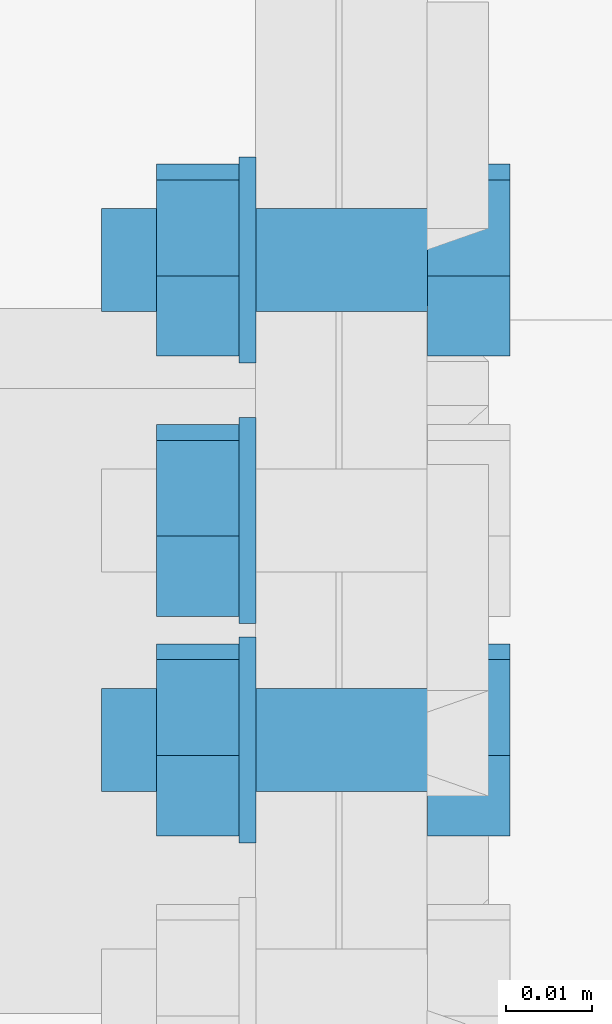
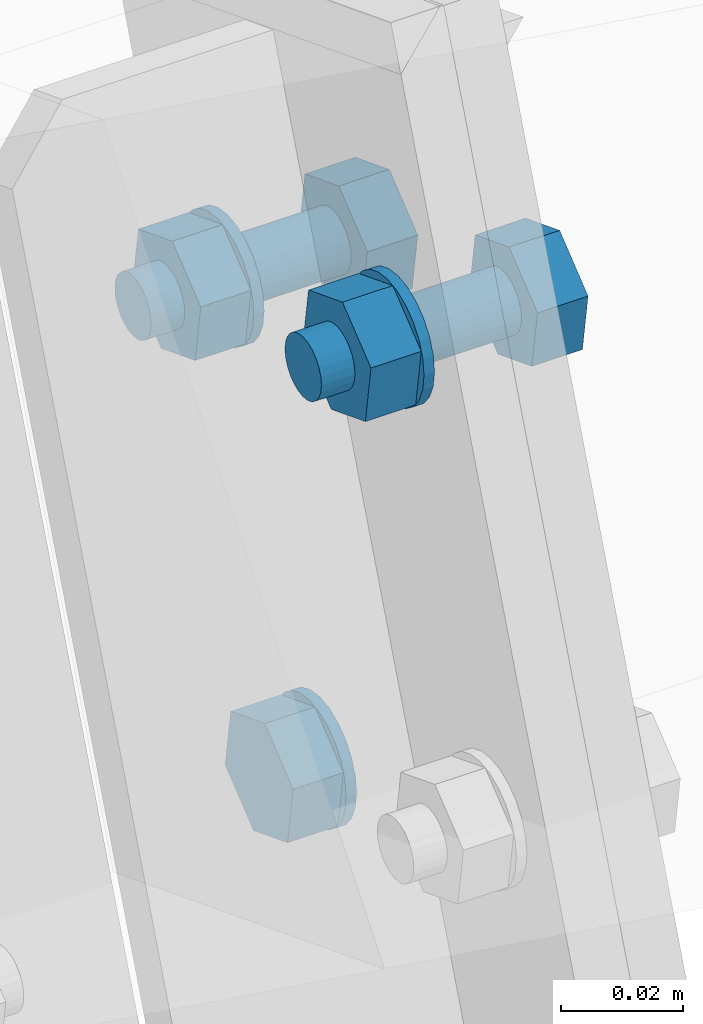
# One storey, part 39 of 72: 10 mechanical fasteners.
"""IFC4 building model written with IfcOpenShell, lengths in metres."""

from ifc_helpers import new_model, si_unit, frame, origin_with_axes, place, context, project, spatial, polyline, outline, extrude, type_object, element, save


model = new_model("IFC4")

# Units and contexts
model_context = context("Model", 3, precision=1e-05, world=origin_with_axes())
ifc_project = project(units=[si_unit("LENGTHUNIT", "METRE"), si_unit("AREAUNIT", "SQUARE_METRE"), si_unit("VOLUMEUNIT", "CUBIC_METRE"), si_unit("MASSUNIT", "GRAM", prefix="KILO"), si_unit("TIMEUNIT", "SECOND"), si_unit("PLANEANGLEUNIT", "RADIAN"), si_unit("SOLIDANGLEUNIT", "STERADIAN"), si_unit("THERMODYNAMICTEMPERATUREUNIT", "DEGREE_CELSIUS")], contexts=[model_context])

# Site, building, storey
placement_1 = place(None, origin_with_axes())
site = spatial("IfcSite", under=ifc_project, at=placement_1, Name="Italia", CompositionType="ELEMENT")
building = spatial("IfcBuilding", under=site, at=placement_1, Name="Uffici", CompositionType="ELEMENT")
storey = spatial("IfcBuildingStorey", under=building, at=placement_1, Name="Storey 0", CompositionType="ELEMENT", Elevation=0.0)

# Mechanical fasteners
mechanical_fastener_type_1 = type_object("IfcMechanicalFastenerType", Name="Collegamento -018_-019", PredefinedType="BOLT")
placement_2 = place(placement_1, origin_with_axes())
mechanical_fastener_1_placement = place(placement_2, origin_with_axes())
element("IfcMechanicalFastener", 1, at=mechanical_fastener_1_placement, inside=storey, type_object=mechanical_fastener_type_1, Name="Collegamento -018_-019", NominalDiameter=0.0119999, context=model_context, shape_type="SweptSolid", body=[
    extrude(outline(polyline([(0.0, 0.0), (-0.0111887, 0.00433731), (-0.0130265, 0.0161958), (-0.00367594, 0.0237169), (0.00751281, 0.0193791), (0.00935078, 0.00752068), (0.0, 0.0)])), frame((6.7984, 3.24515, 5.81823), z_axis=(1.0, 0.0, 0.0), x_axis=(0.0, 1.0, 0.0)), (0.0, 0.0, 1.0), 0.00960016),
])
mechanical_fastener_type_2 = type_object("IfcMechanicalFastenerType", Name="Collegamento -018_-019", PredefinedType="BOLT")
mechanical_fastener_2_placement = place(placement_2, origin_with_axes())
element("IfcMechanicalFastener", 2, at=mechanical_fastener_2_placement, inside=storey, type_object=mechanical_fastener_type_2, Name="Collegamento -018_-019", NominalDiameter=0.024, context=model_context, shape_type="SweptSolid", body=[
    extrude(outline(polyline([(0.0, 0.0), (-0.000408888, -0.00310564), (-0.00160789, -0.00600004), (-0.00351477, -0.00848532), (-0.00600004, -0.0103922), (-0.00889421, -0.011591), (-0.0120001, -0.0120001), (-0.015106, -0.011591), (-0.0180001, -0.0103922), (-0.0204854, -0.00848532), (-0.0223923, -0.00600004), (-0.0235913, -0.00310564), (-0.0240002, 0.0), (-0.0235913, 0.00310564), (-0.0223923, 0.00600004), (-0.0204854, 0.00848532), (-0.0180001, 0.0103922), (-0.015106, 0.011591), (-0.0120001, 0.0120001), (-0.00889421, 0.011591), (-0.00600004, 0.0103922), (-0.00351477, 0.00848532), (-0.00160789, 0.00600004), (-0.000408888, 0.00310564), (0.0, 0.0)])), frame((6.808, 3.25531, 5.83009), z_axis=(1.0, 0.0, 0.0), x_axis=(0.0, 1.0, 0.0)), (0.0, 0.0, 1.0), 0.00199986),
])
mechanical_fastener_type_3 = type_object("IfcMechanicalFastenerType", Name="Collegamento -018_-019", PredefinedType="BOLT")
mechanical_fastener_3_placement = place(placement_2, origin_with_axes())
element("IfcMechanicalFastener", 3, at=mechanical_fastener_3_placement, inside=storey, type_object=mechanical_fastener_type_3, Name="Collegamento -018_-019", NominalDiameter=0.0119999, context=model_context, shape_type="SweptSolid", body=[
    extrude(outline(polyline([(0.0, 0.0), (-0.0111887, 0.00433779), (-0.0130267, 0.0161963), (-0.00367594, 0.0237169), (0.00751281, 0.0193796), (0.00935054, 0.00752115), (0.0, 0.0)])), frame((6.83, 3.21957, 5.91824), z_axis=(1.0, 0.0, 0.0), x_axis=(0.0, 1.0, 0.0)), (0.0, 0.0, 1.0), 0.00960016),
])
mechanical_fastener_type_4 = type_object("IfcMechanicalFastenerType", Name="Collegamento -018_-019", PredefinedType="BOLT")
mechanical_fastener_4_placement = place(placement_2, origin_with_axes())
element("IfcMechanicalFastener", 4, at=mechanical_fastener_4_placement, inside=storey, type_object=mechanical_fastener_type_4, Name="Collegamento -018_-019", NominalDiameter=0.012, context=model_context, shape_type="SweptSolid", body=[
    extrude(outline(polyline([(0.0, 0.0), (-0.000204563, -0.00155306), (-0.000803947, -0.00299978), (-0.00175738, -0.00424242), (-0.00300002, -0.00519609), (-0.00444722, -0.00579548), (-0.00600004, -0.00600004), (-0.00755286, -0.00579548), (-0.00900006, -0.00519609), (-0.0102427, -0.00424242), (-0.0111961, -0.00299978), (-0.0117955, -0.00155306), (-0.0120001, 0.0), (-0.0117955, 0.00155306), (-0.0111961, 0.00299978), (-0.0102427, 0.00424242), (-0.00900006, 0.00519609), (-0.00755286, 0.00579548), (-0.00600004, 0.00600004), (-0.00444722, 0.00579548), (-0.00300002, 0.00519609), (-0.00175738, 0.00424242), (-0.000803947, 0.00299978), (-0.000204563, 0.00155306), (0.0, 0.0)])), frame((6.792, 3.22373, 5.9301), z_axis=(1.0, 0.0, 0.0), x_axis=(0.0, 1.0, 0.0)), (0.0, 0.0, 1.0), 0.0380001),
])
mechanical_fastener_type_5 = type_object("IfcMechanicalFastenerType", Name="Collegamento -018_-019", PredefinedType="BOLT")
mechanical_fastener_5_placement = place(placement_2, origin_with_axes())
element("IfcMechanicalFastener", 5, at=mechanical_fastener_5_placement, inside=storey, type_object=mechanical_fastener_type_5, Name="Collegamento -018_-019", NominalDiameter=0.0119999, context=model_context, shape_type="SweptSolid", body=[
    extrude(outline(polyline([(0.0, 0.0), (-0.0111887, 0.00433779), (-0.0130267, 0.0161963), (-0.00367594, 0.0237169), (0.00751281, 0.0193796), (0.00935054, 0.00752115), (0.0, 0.0)])), frame((6.7984, 3.21957, 5.91824), z_axis=(1.0, 0.0, 0.0), x_axis=(0.0, 1.0, 0.0)), (0.0, 0.0, 1.0), 0.00960016),
])
mechanical_fastener_type_6 = type_object("IfcMechanicalFastenerType", Name="Collegamento -018_-019", PredefinedType="BOLT")
mechanical_fastener_6_placement = place(placement_2, origin_with_axes())
element("IfcMechanicalFastener", 6, at=mechanical_fastener_6_placement, inside=storey, type_object=mechanical_fastener_type_6, Name="Collegamento -018_-019", NominalDiameter=0.024, context=model_context, shape_type="SweptSolid", body=[
    extrude(outline(polyline([(0.0, 0.0), (-0.000408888, -0.00310564), (-0.00160789, -0.00600004), (-0.00351477, -0.00848532), (-0.00600004, -0.0103922), (-0.00889421, -0.011591), (-0.0120001, -0.0120001), (-0.015106, -0.011591), (-0.0180001, -0.0103922), (-0.0204854, -0.00848532), (-0.0223923, -0.00600004), (-0.0235913, -0.00310564), (-0.0240002, 0.0), (-0.0235913, 0.00310564), (-0.0223923, 0.00600004), (-0.0204854, 0.00848532), (-0.0180001, 0.0103922), (-0.015106, 0.011591), (-0.0120001, 0.0120001), (-0.00889421, 0.011591), (-0.00600004, 0.0103922), (-0.00351477, 0.00848532), (-0.00160789, 0.00600004), (-0.000408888, 0.00310564), (0.0, 0.0)])), frame((6.808, 3.22973, 5.9301), z_axis=(1.0, 0.0, 0.0), x_axis=(0.0, 1.0, 0.0)), (0.0, 0.0, 1.0), 0.00199986),
])
mechanical_fastener_type_7 = type_object("IfcMechanicalFastenerType", Name="Collegamento -018_-019", PredefinedType="BOLT")
mechanical_fastener_7_placement = place(placement_2, origin_with_axes())
element("IfcMechanicalFastener", 7, at=mechanical_fastener_7_placement, inside=storey, type_object=mechanical_fastener_type_7, Name="Collegamento -018_-019", NominalDiameter=0.0119997, context=model_context, shape_type="SweptSolid", body=[
    extrude(outline(polyline([(0.0, 0.0), (-0.0111887, 0.00433731), (-0.0130267, 0.0161958), (-0.00367594, 0.0237169), (0.00751281, 0.0193791), (0.00935054, 0.00752068), (0.0, 0.0)])), frame((6.83, 3.27551, 5.89655), z_axis=(1.0, 0.0, 0.0), x_axis=(0.0, 1.0, 0.0)), (0.0, 0.0, 1.0), 0.00960016),
])
mechanical_fastener_type_8 = type_object("IfcMechanicalFastenerType", Name="Collegamento -018_-019", PredefinedType="BOLT")
mechanical_fastener_8_placement = place(placement_2, origin_with_axes())
element("IfcMechanicalFastener", 8, at=mechanical_fastener_8_placement, inside=storey, type_object=mechanical_fastener_type_8, Name="Collegamento -018_-019", NominalDiameter=0.012, context=model_context, shape_type="SweptSolid", body=[
    extrude(outline(polyline([(0.0, 0.0), (-0.000204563, -0.00155306), (-0.000803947, -0.00299978), (-0.00175738, -0.00424242), (-0.00300002, -0.00519609), (-0.00444722, -0.00579548), (-0.00600004, -0.00600004), (-0.00755286, -0.00579548), (-0.00900006, -0.00519609), (-0.0102427, -0.00424242), (-0.0111961, -0.00299978), (-0.0117955, -0.00155306), (-0.0120001, 0.0), (-0.0117955, 0.00155306), (-0.0111961, 0.00299978), (-0.0102427, 0.00424242), (-0.00900006, 0.00519609), (-0.00755286, 0.00579548), (-0.00600004, 0.00600004), (-0.00444722, 0.00579548), (-0.00300002, 0.00519609), (-0.00175738, 0.00424242), (-0.000803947, 0.00299978), (-0.000204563, 0.00155306), (0.0, 0.0)])), frame((6.792, 3.27967, 5.90841), z_axis=(1.0, 0.0, 0.0), x_axis=(0.0, 1.0, 0.0)), (0.0, 0.0, 1.0), 0.0380001),
])
mechanical_fastener_type_9 = type_object("IfcMechanicalFastenerType", Name="Collegamento -018_-019", PredefinedType="BOLT")
mechanical_fastener_9_placement = place(placement_2, origin_with_axes())
element("IfcMechanicalFastener", 9, at=mechanical_fastener_9_placement, inside=storey, type_object=mechanical_fastener_type_9, Name="Collegamento -018_-019", NominalDiameter=0.0119997, context=model_context, shape_type="SweptSolid", body=[
    extrude(outline(polyline([(0.0, 0.0), (-0.0111887, 0.00433731), (-0.0130267, 0.0161958), (-0.00367594, 0.0237169), (0.00751281, 0.0193791), (0.00935054, 0.00752068), (0.0, 0.0)])), frame((6.7984, 3.27551, 5.89655), z_axis=(1.0, 0.0, 0.0), x_axis=(0.0, 1.0, 0.0)), (0.0, 0.0, 1.0), 0.00960016),
])
mechanical_fastener_type_10 = type_object("IfcMechanicalFastenerType", Name="Collegamento -018_-019", PredefinedType="BOLT")
mechanical_fastener_10_placement = place(placement_2, origin_with_axes())
element("IfcMechanicalFastener", 10, at=mechanical_fastener_10_placement, inside=storey, type_object=mechanical_fastener_type_10, Name="Collegamento -018_-019", NominalDiameter=0.024, context=model_context, shape_type="SweptSolid", body=[
    extrude(outline(polyline([(0.0, 0.0), (-0.000408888, -0.00310564), (-0.00160789, -0.00600004), (-0.00351477, -0.00848532), (-0.00600004, -0.0103922), (-0.00889421, -0.011591), (-0.0120001, -0.0120001), (-0.015106, -0.011591), (-0.0180001, -0.0103922), (-0.0204854, -0.00848532), (-0.0223923, -0.00600004), (-0.0235913, -0.00310564), (-0.0240002, 0.0), (-0.0235913, 0.00310564), (-0.0223923, 0.00600004), (-0.0204854, 0.00848532), (-0.0180001, 0.0103922), (-0.015106, 0.011591), (-0.0120001, 0.0120001), (-0.00889421, 0.011591), (-0.00600004, 0.0103922), (-0.00351477, 0.00848532), (-0.00160789, 0.00600004), (-0.000408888, 0.00310564), (0.0, 0.0)])), frame((6.808, 3.28567, 5.90841), z_axis=(1.0, 0.0, 0.0), x_axis=(0.0, 1.0, 0.0)), (0.0, 0.0, 1.0), 0.00199986),
])

save(model, "model.ifc")
